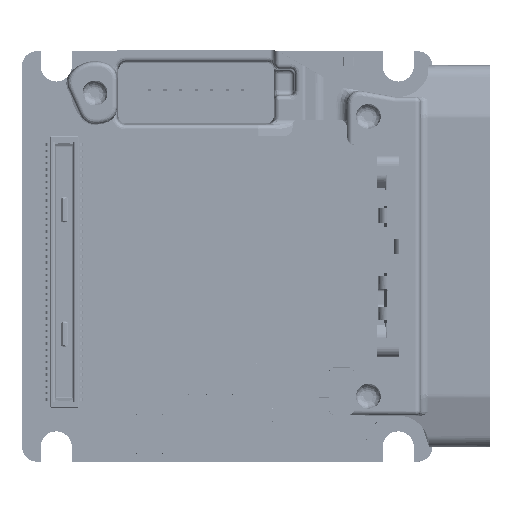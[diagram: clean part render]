
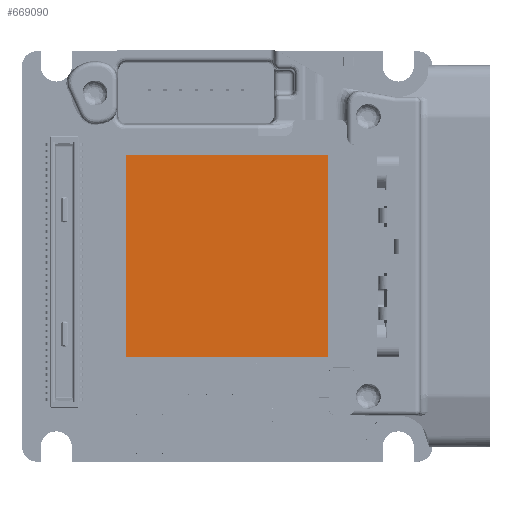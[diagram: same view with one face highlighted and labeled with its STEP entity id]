
A CAD part, top view. The second image highlights one B-rep face of the part: STEP entity #669090.
In plain terms, the highlighted planar face has unit normal (0, 0, 1).
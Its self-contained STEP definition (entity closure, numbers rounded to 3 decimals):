
#8527 = ORIENTED_EDGE ( 'NONE', *, *, #110451, .F. ) ;
#18815 = ORIENTED_EDGE ( 'NONE', *, *, #253520, .F. ) ;
#19685 = DIRECTION ( 'NONE',  ( 0., 1., 0. ) ) ;
#36830 = CARTESIAN_POINT ( 'NONE',  ( 6.5, 6.5, 6.162 ) ) ;
#40416 = LINE ( 'NONE', #633530, #640215 ) ;
#47763 = ORIENTED_EDGE ( 'NONE', *, *, #613262, .F. ) ;
#110451 = EDGE_CURVE ( 'NONE', #556346, #397043, #681815, .T. ) ;
#118579 = VECTOR ( 'NONE', #19685, 1000. ) ;
#150070 = PLANE ( 'NONE',  #243924 ) ;
#173627 = ORIENTED_EDGE ( 'NONE', *, *, #576863, .F. ) ;
#198877 = FACE_OUTER_BOUND ( 'NONE', #593341, .T. ) ;
#200256 = VERTEX_POINT ( 'NONE', #461053 ) ;
#206837 = DIRECTION ( 'NONE',  ( 0., -1., 0. ) ) ;
#226648 = VECTOR ( 'NONE', #475848, 1000. ) ;
#243924 = AXIS2_PLACEMENT_3D ( 'NONE', #351438, #313103, #486127 ) ;
#253520 = EDGE_CURVE ( 'NONE', #200256, #446891, #342291, .T. ) ;
#264468 = LINE ( 'NONE', #527919, #226648 ) ;
#313103 = DIRECTION ( 'NONE',  ( 0., 0., 1. ) ) ;
#342291 = LINE ( 'NONE', #432614, #118579 ) ;
#351438 = CARTESIAN_POINT ( 'NONE',  ( -6.5, -6.5, 6.162 ) ) ;
#369807 = DIRECTION ( 'NONE',  ( -1., 0., 0. ) ) ;
#382354 = CARTESIAN_POINT ( 'NONE',  ( 6.5, 6.5, 6.162 ) ) ;
#397043 = VERTEX_POINT ( 'NONE', #674627 ) ;
#432614 = CARTESIAN_POINT ( 'NONE',  ( -6.5, -6.5, 6.162 ) ) ;
#446891 = VERTEX_POINT ( 'NONE', #679655 ) ;
#461053 = CARTESIAN_POINT ( 'NONE',  ( -6.5, -6.5, 6.162 ) ) ;
#475848 = DIRECTION ( 'NONE',  ( 1., 0., 0. ) ) ;
#486127 = DIRECTION ( 'NONE',  ( 1., 0., 0. ) ) ;
#527919 = CARTESIAN_POINT ( 'NONE',  ( -6.5, 6.5, 6.162 ) ) ;
#556346 = VERTEX_POINT ( 'NONE', #382354 ) ;
#576863 = EDGE_CURVE ( 'NONE', #397043, #200256, #40416, .T. ) ;
#593341 = EDGE_LOOP ( 'NONE', ( #173627, #8527, #47763, #18815 ) ) ;
#613262 = EDGE_CURVE ( 'NONE', #446891, #556346, #264468, .T. ) ;
#633530 = CARTESIAN_POINT ( 'NONE',  ( 6.5, -6.5, 6.162 ) ) ;
#640215 = VECTOR ( 'NONE', #369807, 1000. ) ;
#655197 = VECTOR ( 'NONE', #206837, 1000. ) ;
#669090 = ADVANCED_FACE ( 'NONE', ( #198877 ), #150070, .T. ) ;
#674627 = CARTESIAN_POINT ( 'NONE',  ( 6.5, -6.5, 6.162 ) ) ;
#679655 = CARTESIAN_POINT ( 'NONE',  ( -6.5, 6.5, 6.162 ) ) ;
#681815 = LINE ( 'NONE', #36830, #655197 ) ;
